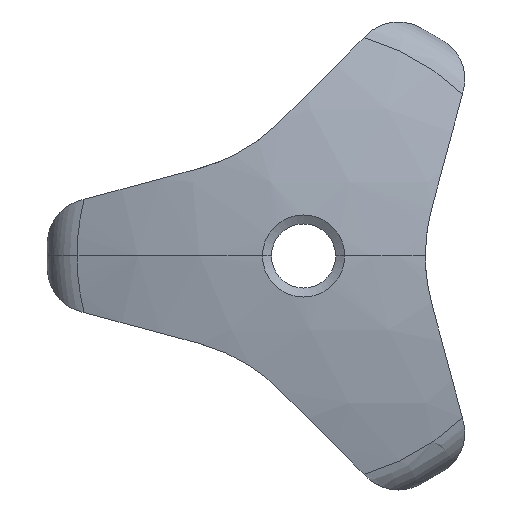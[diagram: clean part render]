
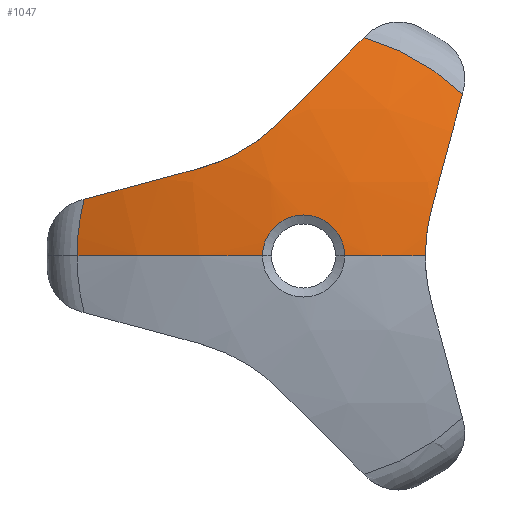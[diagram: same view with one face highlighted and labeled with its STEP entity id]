
A CAD part, left-side view. The second image highlights one B-rep face of the part: STEP entity #1047.
In plain terms, the highlighted spherical face has radius 53 mm.
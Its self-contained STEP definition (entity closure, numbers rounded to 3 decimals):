
#10 = CIRCLE ( 'NONE', #997, 17.667 ) ;
#43 = EDGE_CURVE ( 'NONE', #121, #254, #1509, .T. ) ;
#72 = CARTESIAN_POINT ( 'NONE',  ( -24.926, 8.127, 6.829 ) ) ;
#84 = EDGE_CURVE ( 'NONE', #233, #258, #1225, .T. ) ;
#113 = DIRECTION ( 'NONE',  ( 0., 1., 0. ) ) ;
#115 = ORIENTED_EDGE ( 'NONE', *, *, #932, .F. ) ;
#121 = VERTEX_POINT ( 'NONE', #660 ) ;
#178 = DIRECTION ( 'NONE',  ( 0., 1., 0. ) ) ;
#186 = DIRECTION ( 'NONE',  ( 0., -1., 0. ) ) ;
#189 = CARTESIAN_POINT ( 'NONE',  ( -24.998, -9.819, 3.033 ) ) ;
#209 = CARTESIAN_POINT ( 'NONE',  ( -25.903, 3.2, 0. ) ) ;
#210 = DIRECTION ( 'NONE',  ( 0., 0., 1. ) ) ;
#212 = VERTEX_POINT ( 'NONE', #782 ) ;
#233 = VERTEX_POINT ( 'NONE', #1277 ) ;
#234 = VERTEX_POINT ( 'NONE', #209 ) ;
#238 = CARTESIAN_POINT ( 'NONE',  ( -22.969, 0., 0. ) ) ;
#241 = ORIENTED_EDGE ( 'NONE', *, *, #84, .T. ) ;
#243 = DIRECTION ( 'NONE',  ( 0., 1., 0. ) ) ;
#245 = DIRECTION ( 'NONE',  ( 0., -0.966, 0.259 ) ) ;
#254 = VERTEX_POINT ( 'NONE', #567 ) ;
#258 = VERTEX_POINT ( 'NONE', #918 ) ;
#267 = DIRECTION ( 'NONE',  ( -1., 0., 0. ) ) ;
#302 = CIRCLE ( 'NONE', #1486, 17.667 ) ;
#314 = DIRECTION ( 'NONE',  ( -1., 0., 0. ) ) ;
#319 = DIRECTION ( 'NONE',  ( 0., -0.707, 0.707 ) ) ;
#323 = CIRCLE ( 'NONE', #649, 53. ) ;
#355 = EDGE_CURVE ( 'NONE', #234, #1036, #323, .T. ) ;
#391 = DIRECTION ( 'NONE',  ( 0., 0., 1. ) ) ;
#393 = ORIENTED_EDGE ( 'NONE', *, *, #355, .F. ) ;
#410 = SPHERICAL_SURFACE ( 'NONE', #652, 53. ) ;
#413 = CARTESIAN_POINT ( 'NONE',  ( -25.124, 5.826, 7.652 ) ) ;
#430 = CARTESIAN_POINT ( 'NONE',  ( -25.142, -9.5, 0.61 ) ) ;
#434 = CARTESIAN_POINT ( 'NONE',  ( 27., 0., 0. ) ) ;
#444 = CARTESIAN_POINT ( 'NONE',  ( -25.051, -9.7, 2.436 ) ) ;
#470 = CARTESIAN_POINT ( 'NONE',  ( -25.903, 0., 0. ) ) ;
#476 = EDGE_LOOP ( 'NONE', ( #822, #1540, #1236, #241, #115, #797, #1448, #728, #1481, #393 ) ) ;
#488 = EDGE_CURVE ( 'NONE', #531, #234, #1454, .T. ) ;
#531 = VERTEX_POINT ( 'NONE', #753 ) ;
#539 = CARTESIAN_POINT ( 'NONE',  ( -22.969, 17.667, 0. ) ) ;
#567 = CARTESIAN_POINT ( 'NONE',  ( -24.926, 8.127, 6.829 ) ) ;
#575 = CARTESIAN_POINT ( 'NONE',  ( 27., 0., 0. ) ) ;
#602 = CARTESIAN_POINT ( 'NONE',  ( -22.969, 0., 0. ) ) ;
#624 = AXIS2_PLACEMENT_3D ( 'NONE', #1083, #808, #245 ) ;
#641 = EDGE_CURVE ( 'NONE', #1107, #121, #842, .T. ) ;
#644 = EDGE_CURVE ( 'NONE', #1446, #233, #1262, .T. ) ;
#645 = CARTESIAN_POINT ( 'NONE',  ( -25.07, 2.717, 9.586 ) ) ;
#649 = AXIS2_PLACEMENT_3D ( 'NONE', #434, #1391, #314 ) ;
#652 = AXIS2_PLACEMENT_3D ( 'NONE', #980, #391, #178 ) ;
#655 = CARTESIAN_POINT ( 'NONE',  ( -24.926, 1.851, 10.452 ) ) ;
#660 = CARTESIAN_POINT ( 'NONE',  ( -24.926, 1.851, 10.452 ) ) ;
#728 = ORIENTED_EDGE ( 'NONE', *, *, #1000, .T. ) ;
#738 = AXIS2_PLACEMENT_3D ( 'NONE', #772, #765, #1141 ) ;
#753 = CARTESIAN_POINT ( 'NONE',  ( -25.903, -3.2, 0. ) ) ;
#759 = CARTESIAN_POINT ( 'NONE',  ( -24.998, 7.535, 6.987 ) ) ;
#765 = DIRECTION ( 'NONE',  ( 0., 0.966, 0.259 ) ) ;
#772 = CARTESIAN_POINT ( 'NONE',  ( 27., -8.403, -2.252 ) ) ;
#782 = CARTESIAN_POINT ( 'NONE',  ( -22.969, 17.104, 4.423 ) ) ;
#788 = CARTESIAN_POINT ( 'NONE',  ( 27., 6.151, 6.151 ) ) ;
#797 = ORIENTED_EDGE ( 'NONE', *, *, #641, .T. ) ;
#808 = DIRECTION ( 'NONE',  ( 0., -0.259, -0.966 ) ) ;
#821 = EDGE_CURVE ( 'NONE', #531, #1446, #1379, .T. ) ;
#822 = ORIENTED_EDGE ( 'NONE', *, *, #488, .F. ) ;
#835 = DIRECTION ( 'NONE',  ( 1., 0., 0. ) ) ;
#842 = CIRCLE ( 'NONE', #870, 52.281 ) ;
#870 = AXIS2_PLACEMENT_3D ( 'NONE', #788, #1151, #319 ) ;
#884 = CARTESIAN_POINT ( 'NONE',  ( -25.052, 6.956, 7.184 ) ) ;
#918 = CARTESIAN_POINT ( 'NONE',  ( -22.969, -12.383, 12.601 ) ) ;
#932 = EDGE_CURVE ( 'NONE', #1107, #258, #302, .T. ) ;
#961 = CARTESIAN_POINT ( 'NONE',  ( -25.142, -9.5, 0. ) ) ;
#964 = AXIS2_PLACEMENT_3D ( 'NONE', #470, #267, #243 ) ;
#980 = CARTESIAN_POINT ( 'NONE',  ( 27., 0., 0. ) ) ;
#994 = AXIS2_PLACEMENT_3D ( 'NONE', #575, #210, #186 ) ;
#997 = AXIS2_PLACEMENT_3D ( 'NONE', #602, #835, #1192 ) ;
#1000 = EDGE_CURVE ( 'NONE', #254, #212, #1125, .T. ) ;
#1036 = VERTEX_POINT ( 'NONE', #539 ) ;
#1047 = ADVANCED_FACE ( 'NONE', ( #1363 ), #410, .T. ) ;
#1083 = CARTESIAN_POINT ( 'NONE',  ( 27., 2.252, 8.403 ) ) ;
#1089 = CARTESIAN_POINT ( 'NONE',  ( -22.969, -4.721, 17.024 ) ) ;
#1107 = VERTEX_POINT ( 'NONE', #1089 ) ;
#1121 = CARTESIAN_POINT ( 'NONE',  ( -25.141, 3.68, 8.846 ) ) ;
#1125 = CIRCLE ( 'NONE', #624, 52.281 ) ;
#1141 = DIRECTION ( 'NONE',  ( 0., 0.259, -0.966 ) ) ;
#1151 = DIRECTION ( 'NONE',  ( 0., -0.707, -0.707 ) ) ;
#1192 = DIRECTION ( 'NONE',  ( 0., 1., 0. ) ) ;
#1225 = CIRCLE ( 'NONE', #738, 52.281 ) ;
#1236 = ORIENTED_EDGE ( 'NONE', *, *, #644, .T. ) ;
#1256 = CARTESIAN_POINT ( 'NONE',  ( -25.142, 5.27, 7.926 ) ) ;
#1262 = B_SPLINE_CURVE_WITH_KNOTS ( 'NONE', 3,
 ( #1526, #430, #1518, #444, #189, #1282 ),
 .UNSPECIFIED., .F., .F.,
 ( 4, 2, 4 ),
 ( 0.004, 0.005, 0.007 ),
 .UNSPECIFIED. ) ;
#1277 = CARTESIAN_POINT ( 'NONE',  ( -24.926, -9.977, 3.623 ) ) ;
#1282 = CARTESIAN_POINT ( 'NONE',  ( -24.926, -9.977, 3.623 ) ) ;
#1363 = FACE_OUTER_BOUND ( 'NONE', #476, .T. ) ;
#1379 = CIRCLE ( 'NONE', #994, 53. ) ;
#1391 = DIRECTION ( 'NONE',  ( 0., 0., -1. ) ) ;
#1411 = EDGE_CURVE ( 'NONE', #1036, #212, #10, .T. ) ;
#1446 = VERTEX_POINT ( 'NONE', #961 ) ;
#1448 = ORIENTED_EDGE ( 'NONE', *, *, #43, .T. ) ;
#1454 = CIRCLE ( 'NONE', #964, 3.2 ) ;
#1481 = ORIENTED_EDGE ( 'NONE', *, *, #1411, .F. ) ;
#1486 = AXIS2_PLACEMENT_3D ( 'NONE', #238, #1552, #113 ) ;
#1509 = B_SPLINE_CURVE_WITH_KNOTS ( 'NONE', 3,
 ( #655, #645, #1121, #1256, #413, #884, #759, #72 ),
 .UNSPECIFIED., .F., .F.,
 ( 4, 2, 2, 4 ),
 ( 0., 0.004, 0.005, 0.007 ),
 .UNSPECIFIED. ) ;
#1518 = CARTESIAN_POINT ( 'NONE',  ( -25.123, -9.541, 1.227 ) ) ;
#1526 = CARTESIAN_POINT ( 'NONE',  ( -25.142, -9.5, 0. ) ) ;
#1540 = ORIENTED_EDGE ( 'NONE', *, *, #821, .T. ) ;
#1552 = DIRECTION ( 'NONE',  ( 1., 0., 0. ) ) ;
